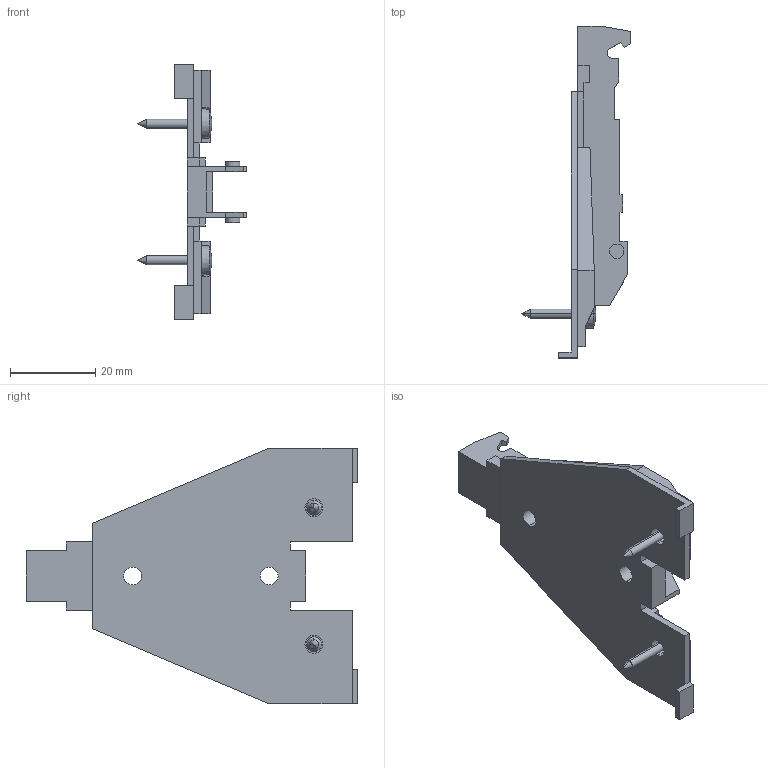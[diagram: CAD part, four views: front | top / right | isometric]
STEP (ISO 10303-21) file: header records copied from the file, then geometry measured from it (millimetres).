
FILE_DESCRIPTION (( 'STEP AP214' ), '1' );
FILE_NAME ('1D Deltamontageplatte Spax_vormontiert_H3,5.step', '2010-11-18T09:42:14', ( 'grass' ), ( '' ), 'SwSTEP 2.0', 'SolidWorks 2010', '' );
FILE_SCHEMA (( 'AUTOMOTIVE_DESIGN' ));
Length unit declared in the file: millimetre
Products named in the file (1): 1D Deltamontageplatte Spax_vormontiert_H3,5
Bounding box: 25.7 x 77.75 x 60 mm (x, y, z)
Volume: 12657.6 mm3; surface area: 9776.9 mm2
Topology: 1 solids, 1 shells, 148 faces, 408 edges, 266 vertices
Faces by surface type: plane 110, cylinder 22, cone 12, sphere 4
Entity records: 4670 total; most frequent: CARTESIAN_POINT 825, ORIENTED_EDGE 808, DIRECTION 760, EDGE_CURVE 404, LINE 342, VECTOR 342, VERTEX_POINT 266, AXIS2_PLACEMENT_3D 209
